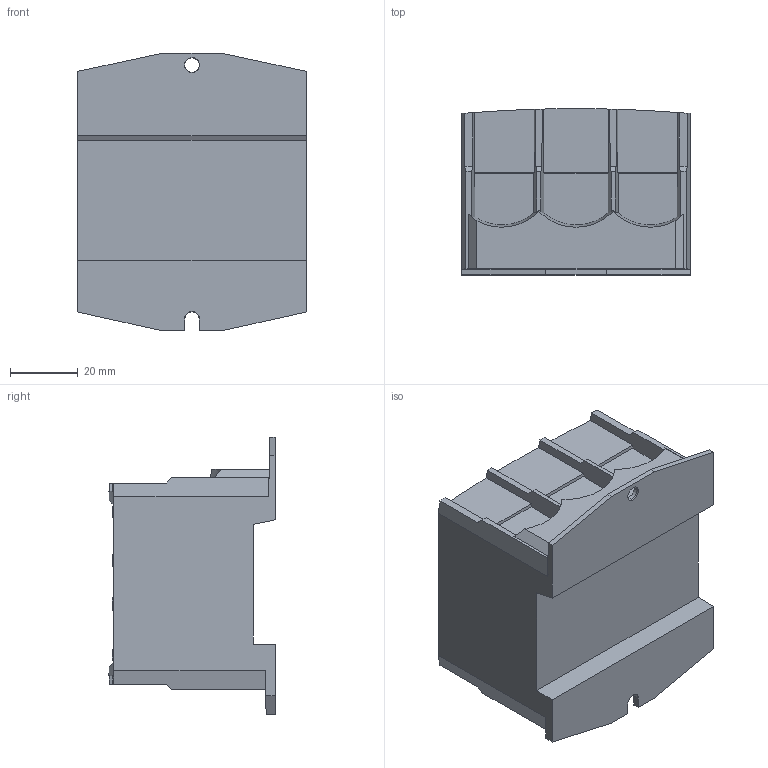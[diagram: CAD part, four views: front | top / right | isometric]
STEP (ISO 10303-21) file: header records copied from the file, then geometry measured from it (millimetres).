
FILE_DESCRIPTION((''),'2;1');
FILE_NAME('1195999','2021-09-21T08:23:16',('VilleKontturi'),(''),'CREO PARAMETRIC BY PTC INC, 2020454','CREO PARAMETRIC BY PTC INC, 2020454','');
FILE_SCHEMA(('AUTOMOTIVE_DESIGN { 1 0 10303 214 1 1 1 1 }'));
Length unit declared in the file: millimetre
Products named in the file (1): 1195999
Bounding box: 67.35 x 48.99 x 81.69 mm (x, y, z)
Volume: 171019.7 mm3; surface area: 25150.2 mm2
Topology: 1 solids, 2 shells, 702 faces, 1955 edges, 1305 vertices
Faces by surface type: plane 378, extrusion 298, cone 23, cylinder 3
Entity records: 29858 total; most frequent: CARTESIAN_POINT 6923, ORIENTED_EDGE 3910, DIRECTION 2483, EDGE_CURVE 1955, VECTOR 1551, VERTEX_POINT 1305, LINE 1253, PRESENTATION_STYLE_ASSIGNMENT 1000
